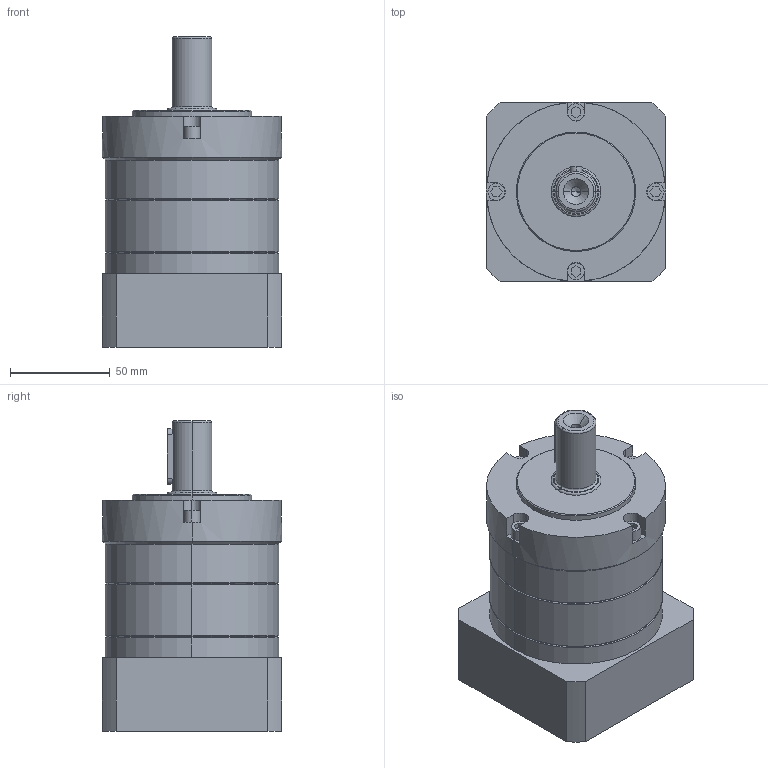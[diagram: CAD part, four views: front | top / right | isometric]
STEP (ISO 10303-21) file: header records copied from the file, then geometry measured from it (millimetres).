
FILE_DESCRIPTION (( 'STEP AP214' ), '1' );
FILE_NAME ('PLE-090-L1-S2-P2 19-70-90-M5.STEP', '2024-02-03T06:09:07', ( '微软用户' ), ( '微软中国' ), 'SwSTEP 2.0', 'SolidWorks 2018', '' );
FILE_SCHEMA (( 'AUTOMOTIVE_DESIGN' ));
Length unit declared in the file: millimetre
Products named in the file (1): PLE-090-L1-S2-P2 19-70-90-M5
Bounding box: 90 x 90 x 156 mm (x, y, z)
Volume: 714234.4 mm3; surface area: 68149.5 mm2
Topology: 1 solids, 1 shells, 142 faces, 334 edges, 213 vertices
Faces by surface type: plane 70, cylinder 50, cone 16, torus 6
Entity records: 4180 total; most frequent: CARTESIAN_POINT 751, DIRECTION 746, ORIENTED_EDGE 664, EDGE_CURVE 332, AXIS2_PLACEMENT_3D 274, VERTEX_POINT 213, LINE 198, VECTOR 198
